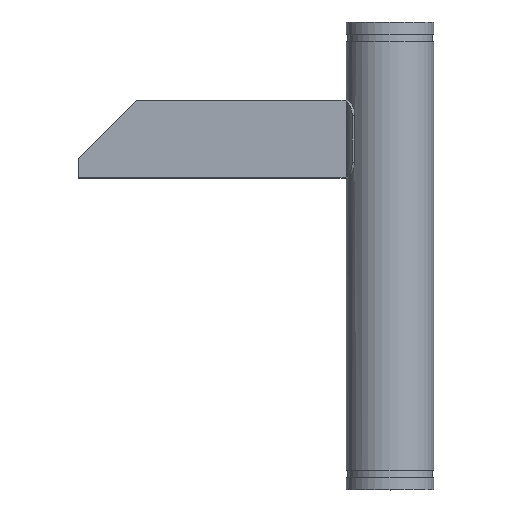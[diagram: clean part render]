
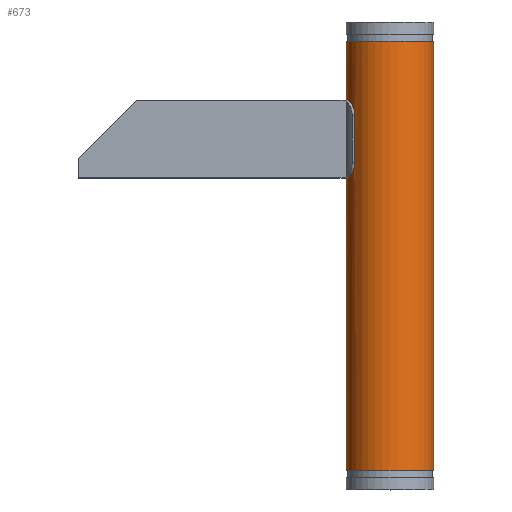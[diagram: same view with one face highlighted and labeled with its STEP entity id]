
A CAD part, top view. The second image highlights one B-rep face of the part: STEP entity #673.
In plain terms, the highlighted cylindrical face has radius 57.15 mm (diameter 114.3 mm), a full revolution.
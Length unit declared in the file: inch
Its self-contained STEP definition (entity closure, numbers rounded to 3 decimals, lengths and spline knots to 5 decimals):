
#24=CIRCLE('',#733,2.25);
#25=CIRCLE('',#734,2.25);
#26=CIRCLE('',#736,2.25);
#27=CIRCLE('',#737,2.25);
#28=CIRCLE('',#738,2.25);
#29=CIRCLE('',#739,2.25);
#30=CIRCLE('',#740,2.25);
#31=CIRCLE('',#741,2.25);
#88=FACE_OUTER_BOUND('',#122,.T.);
#122=EDGE_LOOP('',(#495,#496,#497,#498,#499,#500,#501,#502,#503,#504,#505,
#506,#507,#508,#509,#510,#511,#512));
#150=B_SPLINE_CURVE_WITH_KNOTS('',3,(#983,#984,#985,#986,#987,#988,#989,
#990,#991,#992,#993,#994,#995,#996),.UNSPECIFIED.,.F.,.F.,(4,2,2,2,2,2,
4),(5.23675,5.72323,6.2097,6.7481,
7.28649,8.08324,8.77688),.UNSPECIFIED.);
#153=B_SPLINE_CURVE_WITH_KNOTS('',3,(#1044,#1045,#1046,#1047,#1048,#1049,
#1050,#1051,#1052,#1053,#1054,#1055,#1056,#1057),.UNSPECIFIED.,.F.,.F.,
(4,2,2,2,2,2,4),(1.69661,2.39025,3.187,3.7254,
4.26379,4.75027,5.23675),.UNSPECIFIED.);
#154=B_SPLINE_CURVE_WITH_KNOTS('',3,(#1066,#1067,#1068,#1069,#1070,#1071,
#1072,#1073,#1074,#1075,#1076,#1077,#1078,#1079),.UNSPECIFIED.,.F.,.F.,
(4,2,2,2,2,2,4),(5.23675,5.72323,6.2097,6.7481,
7.28649,8.08324,8.77688),.UNSPECIFIED.);
#157=B_SPLINE_CURVE_WITH_KNOTS('',3,(#1127,#1128,#1129,#1130,#1131,#1132,
#1133,#1134,#1135,#1136,#1137,#1138,#1139,#1140),.UNSPECIFIED.,.F.,.F.,
(4,2,2,2,2,2,4),(1.69661,2.39025,3.187,3.7254,
4.26379,4.75027,5.23675),.UNSPECIFIED.);
#166=LINE('',#1040,#216);
#177=LINE('',#1123,#227);
#192=LINE('',#1179,#242);
#193=LINE('',#1182,#243);
#216=VECTOR('',#805,0.3937);
#227=VECTOR('',#830,0.3937);
#242=VECTOR('',#869,2.25);
#243=VECTOR('',#872,2.25);
#264=VERTEX_POINT('',#980);
#265=VERTEX_POINT('',#982);
#273=VERTEX_POINT('',#1039);
#274=VERTEX_POINT('',#1043);
#277=VERTEX_POINT('',#1063);
#278=VERTEX_POINT('',#1065);
#286=VERTEX_POINT('',#1122);
#287=VERTEX_POINT('',#1126);
#298=VERTEX_POINT('',#1170);
#299=VERTEX_POINT('',#1174);
#300=VERTEX_POINT('',#1175);
#301=VERTEX_POINT('',#1178);
#302=VERTEX_POINT('',#1181);
#303=VERTEX_POINT('',#1183);
#330=EDGE_CURVE('',#264,#265,#150,.F.);
#341=EDGE_CURVE('',#273,#265,#166,.T.);
#343=EDGE_CURVE('',#273,#274,#153,.F.);
#347=EDGE_CURVE('',#277,#278,#154,.F.);
#358=EDGE_CURVE('',#286,#278,#177,.T.);
#360=EDGE_CURVE('',#286,#287,#157,.F.);
#376=EDGE_CURVE('',#298,#287,#24,.T.);
#377=EDGE_CURVE('',#264,#298,#25,.T.);
#378=EDGE_CURVE('',#299,#300,#26,.T.);
#379=EDGE_CURVE('',#300,#299,#27,.T.);
#380=EDGE_CURVE('',#300,#301,#192,.T.);
#381=EDGE_CURVE('',#301,#274,#28,.T.);
#382=EDGE_CURVE('',#298,#302,#193,.T.);
#383=EDGE_CURVE('',#302,#303,#29,.T.);
#384=EDGE_CURVE('',#303,#302,#30,.T.);
#385=EDGE_CURVE('',#277,#301,#31,.T.);
#495=ORIENTED_EDGE('',*,*,#378,.F.);
#496=ORIENTED_EDGE('',*,*,#379,.F.);
#497=ORIENTED_EDGE('',*,*,#380,.T.);
#498=ORIENTED_EDGE('',*,*,#381,.T.);
#499=ORIENTED_EDGE('',*,*,#343,.F.);
#500=ORIENTED_EDGE('',*,*,#341,.T.);
#501=ORIENTED_EDGE('',*,*,#330,.F.);
#502=ORIENTED_EDGE('',*,*,#377,.T.);
#503=ORIENTED_EDGE('',*,*,#382,.T.);
#504=ORIENTED_EDGE('',*,*,#383,.T.);
#505=ORIENTED_EDGE('',*,*,#384,.T.);
#506=ORIENTED_EDGE('',*,*,#382,.F.);
#507=ORIENTED_EDGE('',*,*,#376,.T.);
#508=ORIENTED_EDGE('',*,*,#360,.F.);
#509=ORIENTED_EDGE('',*,*,#358,.T.);
#510=ORIENTED_EDGE('',*,*,#347,.F.);
#511=ORIENTED_EDGE('',*,*,#385,.T.);
#512=ORIENTED_EDGE('',*,*,#380,.F.);
#617=CYLINDRICAL_SURFACE('',#735,2.25);
#673=ADVANCED_FACE('',(#88),#617,.T.);
#733=AXIS2_PLACEMENT_3D('',#1171,#859,#860);
#734=AXIS2_PLACEMENT_3D('',#1172,#861,#862);
#735=AXIS2_PLACEMENT_3D('',#1173,#863,#864);
#736=AXIS2_PLACEMENT_3D('',#1176,#865,#866);
#737=AXIS2_PLACEMENT_3D('',#1177,#867,#868);
#738=AXIS2_PLACEMENT_3D('',#1180,#870,#871);
#739=AXIS2_PLACEMENT_3D('',#1184,#873,#874);
#740=AXIS2_PLACEMENT_3D('',#1185,#875,#876);
#741=AXIS2_PLACEMENT_3D('',#1186,#877,#878);
#805=DIRECTION('',(0.,1.,0.));
#830=DIRECTION('',(0.,-1.,0.));
#859=DIRECTION('center_axis',(0.,1.,0.));
#860=DIRECTION('ref_axis',(1.,0.,0.));
#861=DIRECTION('center_axis',(0.,1.,0.));
#862=DIRECTION('ref_axis',(1.,0.,0.));
#863=DIRECTION('center_axis',(0.,-1.,0.));
#864=DIRECTION('ref_axis',(1.,0.,0.));
#865=DIRECTION('center_axis',(0.,-1.,0.));
#866=DIRECTION('ref_axis',(1.,0.,0.));
#867=DIRECTION('center_axis',(0.,-1.,0.));
#868=DIRECTION('ref_axis',(1.,0.,0.));
#869=DIRECTION('',(0.,1.,0.));
#870=DIRECTION('center_axis',(0.,-1.,0.));
#871=DIRECTION('ref_axis',(1.,0.,0.));
#872=DIRECTION('',(0.,1.,0.));
#873=DIRECTION('center_axis',(0.,-1.,0.));
#874=DIRECTION('ref_axis',(1.,0.,0.));
#875=DIRECTION('center_axis',(0.,-1.,0.));
#876=DIRECTION('ref_axis',(1.,0.,0.));
#877=DIRECTION('center_axis',(0.,-1.,0.));
#878=DIRECTION('ref_axis',(1.,0.,0.));
#980=CARTESIAN_POINT('',(-2.21689,8.,-0.38455));
#982=CARTESIAN_POINT('',(-1.82828,7.2,-1.31145));
#983=CARTESIAN_POINT('Ctrl Pts',(-1.82828,7.2,-1.31145));
#984=CARTESIAN_POINT('Ctrl Pts',(-1.82828,7.26384,-1.31145));
#985=CARTESIAN_POINT('Ctrl Pts',(-1.83354,7.33305,-1.30422));
#986=CARTESIAN_POINT('Ctrl Pts',(-1.85515,7.46583,-1.27329));
#987=CARTESIAN_POINT('Ctrl Pts',(-1.87144,7.52941,-1.24954));
#988=CARTESIAN_POINT('Ctrl Pts',(-1.90966,7.64401,-1.19041));
#989=CARTESIAN_POINT('Ctrl Pts',(-1.93554,7.70345,-1.14866));
#990=CARTESIAN_POINT('Ctrl Pts',(-1.99112,7.8052,-1.04937));
#991=CARTESIAN_POINT('Ctrl Pts',(-2.0206,7.84757,-0.99178));
#992=CARTESIAN_POINT('Ctrl Pts',(-2.08553,7.9267,-0.84957));
#993=CARTESIAN_POINT('Ctrl Pts',(-2.12185,7.95789,-0.75572));
#994=CARTESIAN_POINT('Ctrl Pts',(-2.17871,7.99306,-0.56917));
#995=CARTESIAN_POINT('Ctrl Pts',(-2.2007,8.,-0.47789));
#996=CARTESIAN_POINT('Ctrl Pts',(-2.21689,8.,-0.38455));
#1039=CARTESIAN_POINT('',(-1.82828,4.8,-1.31145));
#1040=CARTESIAN_POINT('',(-1.82828,-5.5,-1.31145));
#1043=CARTESIAN_POINT('',(-2.21689,4.,-0.38455));
#1044=CARTESIAN_POINT('Ctrl Pts',(-2.21689,4.,-0.38455));
#1045=CARTESIAN_POINT('Ctrl Pts',(-2.2007,4.,-0.47789));
#1046=CARTESIAN_POINT('Ctrl Pts',(-2.17871,4.00694,-0.56917));
#1047=CARTESIAN_POINT('Ctrl Pts',(-2.12185,4.04211,-0.75572));
#1048=CARTESIAN_POINT('Ctrl Pts',(-2.08553,4.0733,-0.84957));
#1049=CARTESIAN_POINT('Ctrl Pts',(-2.0206,4.15243,-0.99178));
#1050=CARTESIAN_POINT('Ctrl Pts',(-1.99112,4.1948,-1.04937));
#1051=CARTESIAN_POINT('Ctrl Pts',(-1.93554,4.29655,-1.14866));
#1052=CARTESIAN_POINT('Ctrl Pts',(-1.90966,4.35599,-1.19041));
#1053=CARTESIAN_POINT('Ctrl Pts',(-1.87144,4.47059,-1.24954));
#1054=CARTESIAN_POINT('Ctrl Pts',(-1.85515,4.53417,-1.27329));
#1055=CARTESIAN_POINT('Ctrl Pts',(-1.83354,4.66695,-1.30422));
#1056=CARTESIAN_POINT('Ctrl Pts',(-1.82828,4.73616,-1.31145));
#1057=CARTESIAN_POINT('Ctrl Pts',(-1.82828,4.8,-1.31145));
#1063=CARTESIAN_POINT('',(-2.21689,4.,0.38455));
#1065=CARTESIAN_POINT('',(-1.82828,4.8,1.31145));
#1066=CARTESIAN_POINT('Ctrl Pts',(-1.82828,4.8,1.31145));
#1067=CARTESIAN_POINT('Ctrl Pts',(-1.82828,4.73616,1.31145));
#1068=CARTESIAN_POINT('Ctrl Pts',(-1.83354,4.66695,1.30422));
#1069=CARTESIAN_POINT('Ctrl Pts',(-1.85515,4.53417,1.27329));
#1070=CARTESIAN_POINT('Ctrl Pts',(-1.87144,4.47059,1.24954));
#1071=CARTESIAN_POINT('Ctrl Pts',(-1.90966,4.35599,1.19041));
#1072=CARTESIAN_POINT('Ctrl Pts',(-1.93554,4.29655,1.14866));
#1073=CARTESIAN_POINT('Ctrl Pts',(-1.99112,4.1948,1.04937));
#1074=CARTESIAN_POINT('Ctrl Pts',(-2.0206,4.15243,0.99178));
#1075=CARTESIAN_POINT('Ctrl Pts',(-2.08553,4.0733,0.84957));
#1076=CARTESIAN_POINT('Ctrl Pts',(-2.12185,4.04211,0.75572));
#1077=CARTESIAN_POINT('Ctrl Pts',(-2.17871,4.00694,0.56917));
#1078=CARTESIAN_POINT('Ctrl Pts',(-2.2007,4.,0.47789));
#1079=CARTESIAN_POINT('Ctrl Pts',(-2.21689,4.,0.38455));
#1122=CARTESIAN_POINT('',(-1.82828,7.2,1.31145));
#1123=CARTESIAN_POINT('',(-1.82828,-5.5,1.31145));
#1126=CARTESIAN_POINT('',(-2.21689,8.,0.38455));
#1127=CARTESIAN_POINT('Ctrl Pts',(-2.21689,8.,0.38455));
#1128=CARTESIAN_POINT('Ctrl Pts',(-2.2007,8.,0.47789));
#1129=CARTESIAN_POINT('Ctrl Pts',(-2.17871,7.99306,0.56917));
#1130=CARTESIAN_POINT('Ctrl Pts',(-2.12185,7.95789,0.75572));
#1131=CARTESIAN_POINT('Ctrl Pts',(-2.08553,7.9267,0.84957));
#1132=CARTESIAN_POINT('Ctrl Pts',(-2.0206,7.84757,0.99178));
#1133=CARTESIAN_POINT('Ctrl Pts',(-1.99112,7.8052,1.04937));
#1134=CARTESIAN_POINT('Ctrl Pts',(-1.93554,7.70345,1.14866));
#1135=CARTESIAN_POINT('Ctrl Pts',(-1.90966,7.64401,1.19041));
#1136=CARTESIAN_POINT('Ctrl Pts',(-1.87144,7.52941,1.24954));
#1137=CARTESIAN_POINT('Ctrl Pts',(-1.85515,7.46583,1.27329));
#1138=CARTESIAN_POINT('Ctrl Pts',(-1.83354,7.33305,1.30422));
#1139=CARTESIAN_POINT('Ctrl Pts',(-1.82828,7.26384,1.31145));
#1140=CARTESIAN_POINT('Ctrl Pts',(-1.82828,7.2,1.31145));
#1170=CARTESIAN_POINT('',(-2.25,8.,0.));
#1171=CARTESIAN_POINT('Origin',(0.,8.,0.));
#1172=CARTESIAN_POINT('Origin',(0.,8.,0.));
#1173=CARTESIAN_POINT('Origin',(0.,-5.5,0.));
#1174=CARTESIAN_POINT('',(2.25,-11.,0.));
#1175=CARTESIAN_POINT('',(-2.25,-11.,0.));
#1176=CARTESIAN_POINT('Origin',(0.,-11.,0.));
#1177=CARTESIAN_POINT('Origin',(0.,-11.,0.));
#1178=CARTESIAN_POINT('',(-2.25,4.,0.));
#1179=CARTESIAN_POINT('',(-2.25,-5.5,0.));
#1180=CARTESIAN_POINT('Origin',(0.,4.,0.));
#1181=CARTESIAN_POINT('',(-2.25,11.,0.));
#1182=CARTESIAN_POINT('',(-2.25,-5.5,0.));
#1183=CARTESIAN_POINT('',(2.25,11.,0.));
#1184=CARTESIAN_POINT('Origin',(0.,11.,0.));
#1185=CARTESIAN_POINT('Origin',(0.,11.,0.));
#1186=CARTESIAN_POINT('Origin',(0.,4.,0.));
